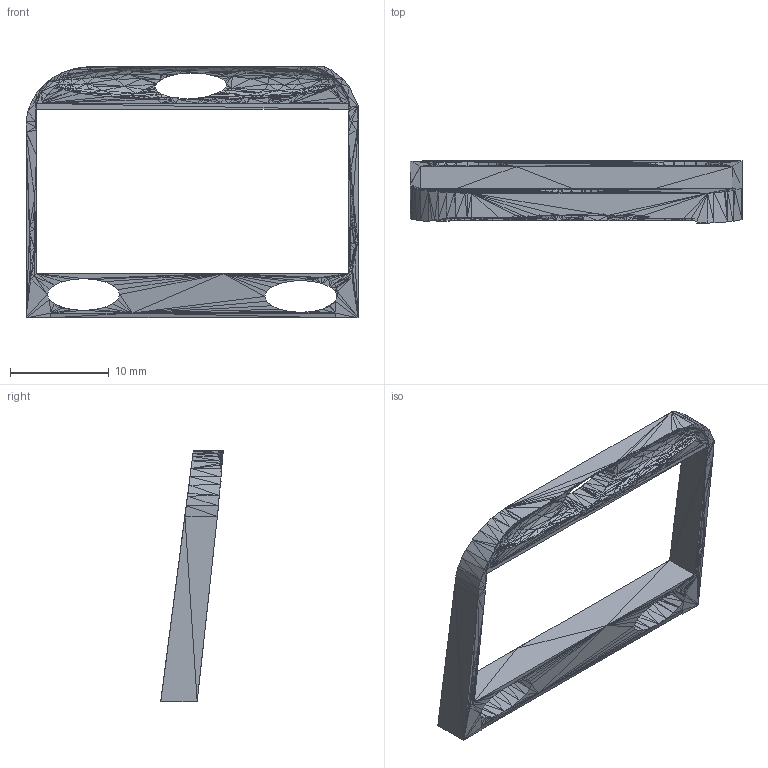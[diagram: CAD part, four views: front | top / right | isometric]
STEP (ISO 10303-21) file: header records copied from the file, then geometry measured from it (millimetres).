
FILE_DESCRIPTION(('FreeCAD Model'),'2;1');
FILE_NAME('Open CASCADE Shape Model','2025-03-06T13:11:27',('Author'),( ''),'Open CASCADE STEP processor 7.8','FreeCAD','Unknown');
FILE_SCHEMA(('AUTOMOTIVE_DESIGN { 1 0 10303 214 1 1 1 1 }'));
Length unit declared in the file: millimetre
Products named in the file (1): FOSSToritisSunGlassLens002 (Solid)
Bounding box: 33.54 x 6.33 x 25.43 mm (x, y, z)
Volume: 824.5 mm3; surface area: 1420.5 mm2
Topology: 1 solids, 1 shells, 1466 faces, 2199 edges, 727 vertices
Faces by surface type: plane 1466
Entity records: 28605 total; most frequent: DIRECTION 5133, ORIENTED_EDGE 4398, CARTESIAN_POINT 4393, EDGE_CURVE 2199, LINE 2199, VECTOR 2199, AXIS2_PLACEMENT_3D 1467, ADVANCED_FACE 1466
